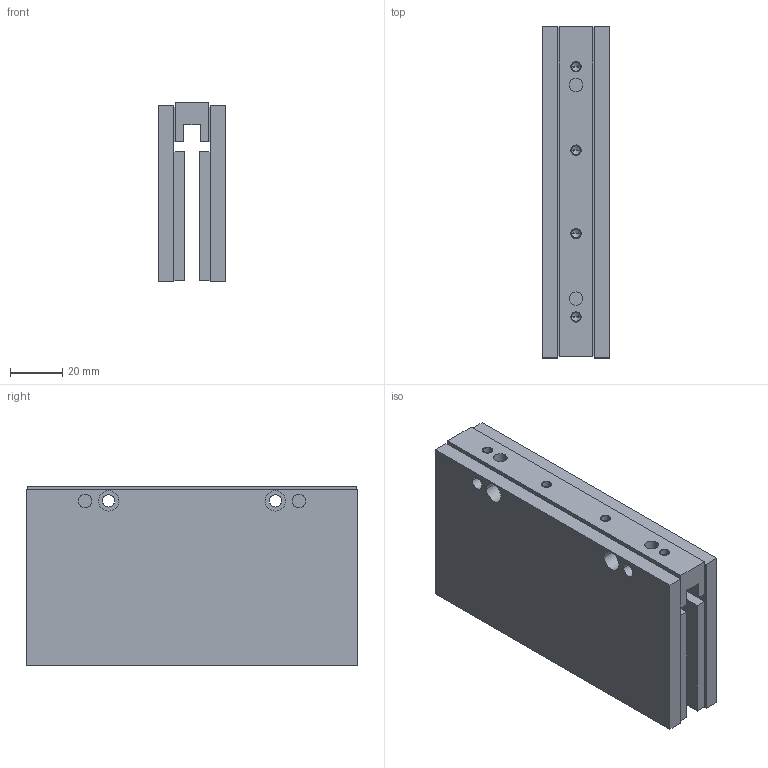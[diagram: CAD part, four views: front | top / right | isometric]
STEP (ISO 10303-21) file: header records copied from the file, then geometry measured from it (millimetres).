
FILE_DESCRIPTION((''),'2;1');
FILE_NAME('MW050L-0128','2007-01-14T',('saurabh.singhal'),(''),'PRO/ENGINEER BY PARAMETRIC TECHNOLOGY CORPORATION, 2005450','PRO/ENGINEER BY PARAMETRIC TECHNOLOGY CORPORATION, 2005450','');
FILE_SCHEMA(('CONFIG_CONTROL_DESIGN'));
Length unit declared in the file: millimetre
Products named in the file (1): MW050L-0128
Bounding box: 25.4 x 127.3 x 69 mm (x, y, z)
Volume: 168479.1 mm3; surface area: 46527.3 mm2
Topology: 1 solids, 5 shells, 106 faces, 257 edges, 167 vertices
Faces by surface type: plane 58, cylinder 40, cone 8
Entity records: 3108 total; most frequent: DIRECTION 551, CARTESIAN_POINT 523, ORIENTED_EDGE 482, EDGE_CURVE 249, AXIS2_PLACEMENT_3D 195, VERTEX_POINT 167, VECTOR 161, LINE 161
